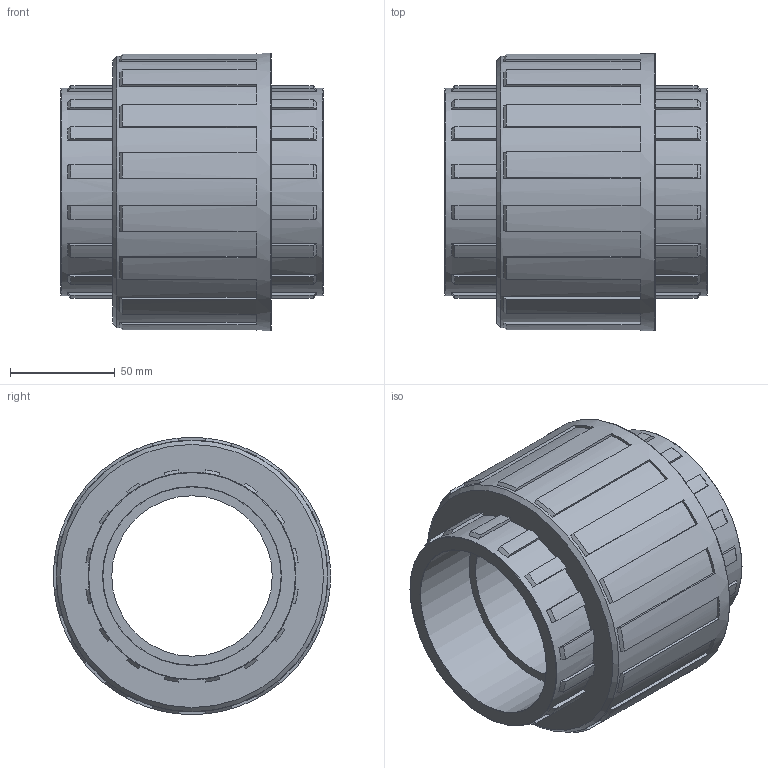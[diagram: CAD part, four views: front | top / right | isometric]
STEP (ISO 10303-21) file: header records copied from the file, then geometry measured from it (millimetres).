
FILE_DESCRIPTION(/* description */ ('PLASSON THR.UNION+O RING PVC 3"'),/* implementation_level */ '2;1');
FILE_NAME(/* name */ 'C:\Dropbox\KIMPROJECTS-Inventor\99-16-3568-Processing\PVC Catalog 2017\050801\050801030.ipt.stp',/* time_stamp */ '2017-12-07T15:58:10+02:00',/* author */ ('KIM'),/* organization */ (''),/* preprocessor_version */ 'ST-DEVELOPER v15.6',/* originating_system */ 'Autodesk Inventor 2015',/* authorisation */ '');
FILE_SCHEMA (('AUTOMOTIVE_DESIGN { 1 0 10303 214 3 1 1 }'));
Length unit declared in the file: millimetre
Products named in the file (1): 050801030
Bounding box: 125 x 132 x 132 mm (x, y, z)
Volume: 754558.4 mm3; surface area: 100290.1 mm2
Topology: 1 solids, 1 shells, 211 faces, 609 edges, 404 vertices
Faces by surface type: plane 118, cone 49, cylinder 39, torus 5
Full cylindrical faces by diameter (mm): 76.433 x1, 84.926 x2, 98.854 x2, 129.36 x1, 132 x1
Entity records: 6910 total; most frequent: DIRECTION 1224, CARTESIAN_POINT 1204, ORIENTED_EDGE 1184, EDGE_CURVE 592, AXIS2_PLACEMENT_3D 420, VERTEX_POINT 400, LINE 384, VECTOR 384
